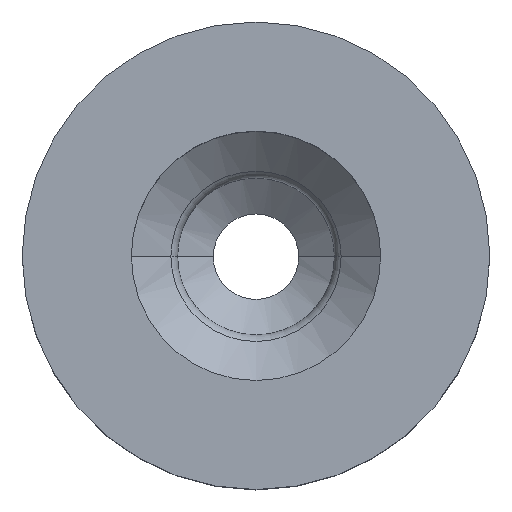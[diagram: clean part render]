
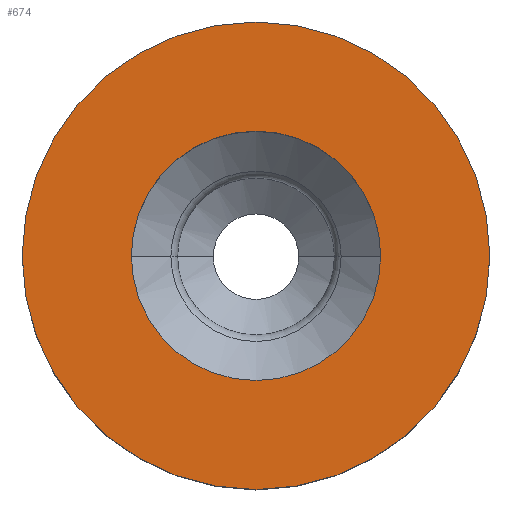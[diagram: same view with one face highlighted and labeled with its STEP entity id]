
A CAD part, top view. The second image highlights one B-rep face of the part: STEP entity #674.
In plain terms, the highlighted planar face has unit normal (0, 0, 1).
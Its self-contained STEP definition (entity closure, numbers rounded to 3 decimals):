
#99 = EDGE_CURVE ( 'NONE', #258, #276, #254, .T. ) ;
#110 = VERTEX_POINT ( 'NONE', #716 ) ;
#116 = AXIS2_PLACEMENT_3D ( 'NONE', #774, #778, #784 ) ;
#121 = EDGE_CURVE ( 'NONE', #949, #110, #308, .T. ) ;
#146 = ORIENTED_EDGE ( 'NONE', *, *, #596, .T. ) ;
#156 = EDGE_CURVE ( 'NONE', #276, #258, #325, .T. ) ;
#173 = EDGE_LOOP ( 'NONE', ( #295, #878 ) ) ;
#247 = AXIS2_PLACEMENT_3D ( 'NONE', #471, #699, #423 ) ;
#251 = FACE_OUTER_BOUND ( 'NONE', #539, .T. ) ;
#254 = CIRCLE ( 'NONE', #247, 4. ) ;
#258 = VERTEX_POINT ( 'NONE', #805 ) ;
#266 = AXIS2_PLACEMENT_3D ( 'NONE', #761, #817, #651 ) ;
#276 = VERTEX_POINT ( 'NONE', #582 ) ;
#295 = ORIENTED_EDGE ( 'NONE', *, *, #156, .F. ) ;
#308 = CIRCLE ( 'NONE', #517, 7.5 ) ;
#318 = PLANE ( 'NONE',  #544 ) ;
#325 = CIRCLE ( 'NONE', #116, 4. ) ;
#383 = DIRECTION ( 'NONE',  ( 0., 0., -1. ) ) ;
#389 = DIRECTION ( 'NONE',  ( -1., 0., 0. ) ) ;
#423 = DIRECTION ( 'NONE',  ( 1., 0., 0. ) ) ;
#463 = FACE_BOUND ( 'NONE', #173, .T. ) ;
#471 = CARTESIAN_POINT ( 'NONE',  ( 0., 0., 0. ) ) ;
#475 = CIRCLE ( 'NONE', #266, 7.5 ) ;
#491 = CARTESIAN_POINT ( 'NONE',  ( 0., 0., 0. ) ) ;
#517 = AXIS2_PLACEMENT_3D ( 'NONE', #664, #903, #842 ) ;
#539 = EDGE_LOOP ( 'NONE', ( #844, #146 ) ) ;
#544 = AXIS2_PLACEMENT_3D ( 'NONE', #491, #383, #389 ) ;
#582 = CARTESIAN_POINT ( 'NONE',  ( 4., 0., 0. ) ) ;
#596 = EDGE_CURVE ( 'NONE', #110, #949, #475, .T. ) ;
#651 = DIRECTION ( 'NONE',  ( 1., 0., 0. ) ) ;
#664 = CARTESIAN_POINT ( 'NONE',  ( 0., 0., 0. ) ) ;
#674 = ADVANCED_FACE ( 'NONE', ( #251, #463 ), #318, .F. ) ;
#699 = DIRECTION ( 'NONE',  ( 0., 0., 1. ) ) ;
#716 = CARTESIAN_POINT ( 'NONE',  ( -7.5, 0., 0. ) ) ;
#761 = CARTESIAN_POINT ( 'NONE',  ( 0., 0., 0. ) ) ;
#774 = CARTESIAN_POINT ( 'NONE',  ( 0., 0., 0. ) ) ;
#778 = DIRECTION ( 'NONE',  ( 0., 0., 1. ) ) ;
#784 = DIRECTION ( 'NONE',  ( 1., 0., 0. ) ) ;
#805 = CARTESIAN_POINT ( 'NONE',  ( -4., 0., 0. ) ) ;
#817 = DIRECTION ( 'NONE',  ( 0., 0., 1. ) ) ;
#842 = DIRECTION ( 'NONE',  ( 1., 0., 0. ) ) ;
#844 = ORIENTED_EDGE ( 'NONE', *, *, #121, .T. ) ;
#878 = ORIENTED_EDGE ( 'NONE', *, *, #99, .F. ) ;
#903 = DIRECTION ( 'NONE',  ( 0., 0., 1. ) ) ;
#907 = CARTESIAN_POINT ( 'NONE',  ( 7.5, 0., 0. ) ) ;
#949 = VERTEX_POINT ( 'NONE', #907 ) ;
